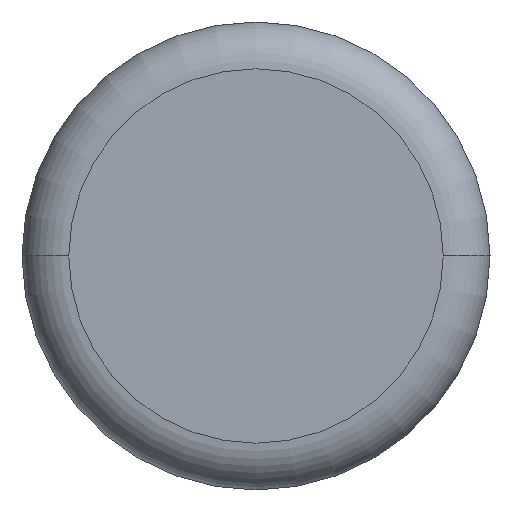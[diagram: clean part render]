
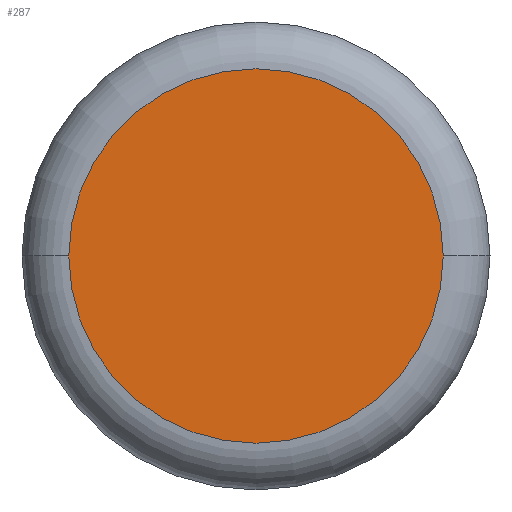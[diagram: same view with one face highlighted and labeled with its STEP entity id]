
A CAD part, front view. The second image highlights one B-rep face of the part: STEP entity #287.
In plain terms, the highlighted planar face has unit normal (0, -1, 0).
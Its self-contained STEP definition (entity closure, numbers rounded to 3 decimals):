
#45=CARTESIAN_POINT('',(18.5,31.7,7.2));
#46=DIRECTION('',(0.,-1.,0.));
#47=DIRECTION('',(-1.,0.,0.));
#48=AXIS2_PLACEMENT_3D('',#45,#46,#47);
#50=CARTESIAN_POINT('',(18.5,31.7,7.2));
#51=DIRECTION('',(0.,-1.,0.));
#52=DIRECTION('',(1.,0.,0.));
#53=AXIS2_PLACEMENT_3D('',#50,#51,#52);
#196=CARTESIAN_POINT('',(17.3,31.7,7.2));
#197=CARTESIAN_POINT('',(19.7,31.7,7.2));
#198=VERTEX_POINT('',#196);
#199=VERTEX_POINT('',#197);
#277=CARTESIAN_POINT('',(18.5,31.7,7.2));
#278=DIRECTION('',(0.,-1.,0.));
#279=DIRECTION('',(-1.,0.,0.));
#280=AXIS2_PLACEMENT_3D('',#277,#278,#279);
#281=PLANE('',#280);
#283=ORIENTED_EDGE('',*,*,#282,.F.);
#284=ORIENTED_EDGE('',*,*,#267,.F.);
#285=EDGE_LOOP('',(#283,#284));
#286=FACE_OUTER_BOUND('',#285,.F.);
#287=ADVANCED_FACE('',(#286),#281,.T.);
#49=CIRCLE('',#48,1.2);
#54=CIRCLE('',#53,1.2);
#267=EDGE_CURVE('',#199,#198,#54,.T.);
#282=EDGE_CURVE('',#198,#199,#49,.T.);
